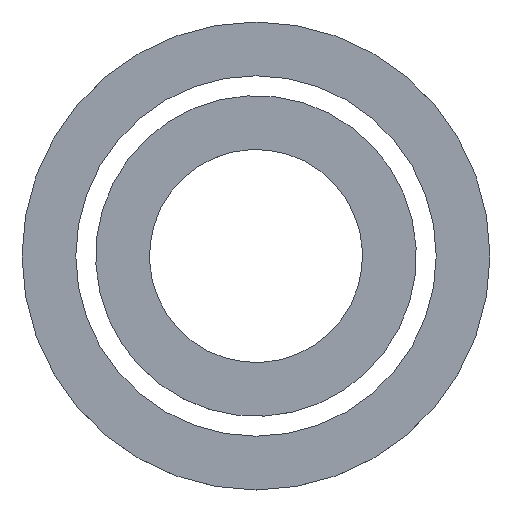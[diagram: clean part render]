
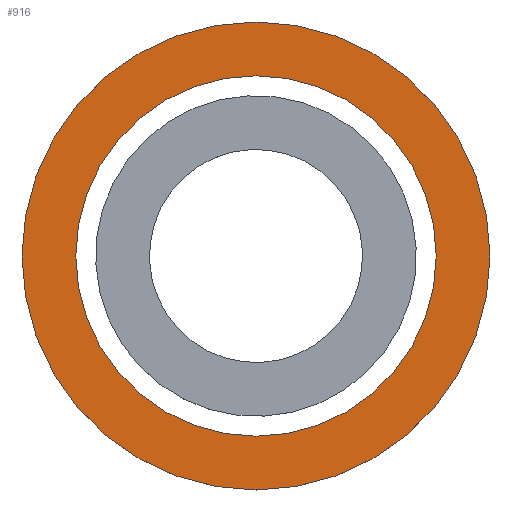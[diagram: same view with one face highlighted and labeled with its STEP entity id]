
A CAD part, top view. The second image highlights one B-rep face of the part: STEP entity #916.
In plain terms, the highlighted planar face has unit normal (0, 0, 1).
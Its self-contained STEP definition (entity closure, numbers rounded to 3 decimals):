
#827=CARTESIAN_POINT('',(0.,0.,12.1));
#828=DIRECTION('',(0.,0.,-1.));
#829=DIRECTION('',(-1.,0.,0.));
#830=AXIS2_PLACEMENT_3D('',#827,#828,#829);
#832=CARTESIAN_POINT('',(0.,0.,12.1));
#833=DIRECTION('',(0.,0.,-1.));
#834=DIRECTION('',(1.,0.,0.));
#835=AXIS2_PLACEMENT_3D('',#832,#833,#834);
#837=CARTESIAN_POINT('',(0.,0.,12.1));
#838=DIRECTION('',(0.,0.,1.));
#839=DIRECTION('',(-1.,0.,0.));
#840=AXIS2_PLACEMENT_3D('',#837,#838,#839);
#842=CARTESIAN_POINT('',(0.,0.,12.1));
#843=DIRECTION('',(0.,0.,1.));
#844=DIRECTION('',(1.,0.,0.));
#845=AXIS2_PLACEMENT_3D('',#842,#843,#844);
#883=CARTESIAN_POINT('',(-11.75,0.,12.1));
#884=CARTESIAN_POINT('',(11.75,0.,12.1));
#885=VERTEX_POINT('',#883);
#886=VERTEX_POINT('',#884);
#887=CARTESIAN_POINT('',(-9.05,0.,12.1));
#888=CARTESIAN_POINT('',(9.05,0.,12.1));
#889=VERTEX_POINT('',#887);
#890=VERTEX_POINT('',#888);
#899=CARTESIAN_POINT('',(0.,0.,12.1));
#900=DIRECTION('',(0.,0.,1.));
#901=DIRECTION('',(1.,0.,0.));
#902=AXIS2_PLACEMENT_3D('',#899,#900,#901);
#903=PLANE('',#902);
#905=ORIENTED_EDGE('',*,*,#904,.T.);
#907=ORIENTED_EDGE('',*,*,#906,.T.);
#908=EDGE_LOOP('',(#905,#907));
#909=FACE_OUTER_BOUND('',#908,.F.);
#911=ORIENTED_EDGE('',*,*,#910,.T.);
#913=ORIENTED_EDGE('',*,*,#912,.T.);
#914=EDGE_LOOP('',(#911,#913));
#915=FACE_BOUND('',#914,.F.);
#916=ADVANCED_FACE('',(#909,#915),#903,.T.);
#831=CIRCLE('',#830,11.75);
#836=CIRCLE('',#835,11.75);
#841=CIRCLE('',#840,9.05);
#846=CIRCLE('',#845,9.05);
#904=EDGE_CURVE('',#885,#886,#831,.T.);
#906=EDGE_CURVE('',#886,#885,#836,.T.);
#910=EDGE_CURVE('',#889,#890,#841,.T.);
#912=EDGE_CURVE('',#890,#889,#846,.T.);
